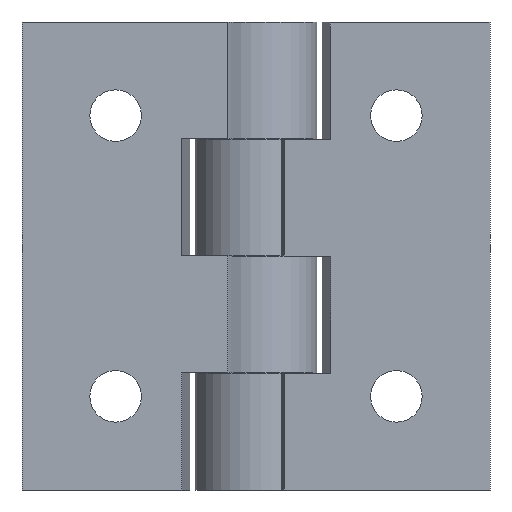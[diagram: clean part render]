
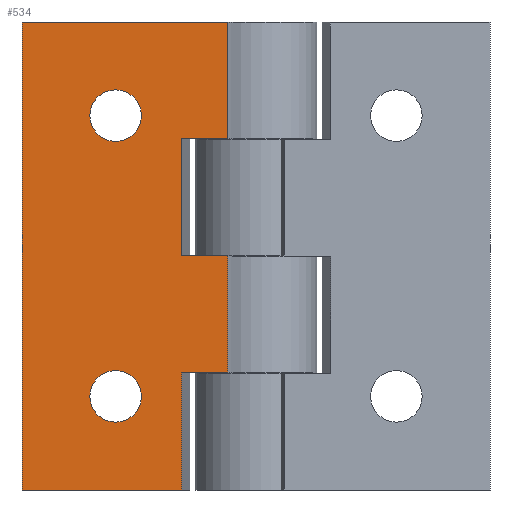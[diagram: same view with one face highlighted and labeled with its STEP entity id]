
A CAD part, front view. The second image highlights one B-rep face of the part: STEP entity #534.
In plain terms, the highlighted planar face has unit normal (0, -1, 0).
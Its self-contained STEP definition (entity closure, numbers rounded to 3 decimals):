
#14 = VECTOR ( 'NONE', #180, 1000. ) ;
#27 = CARTESIAN_POINT ( 'NONE',  ( -39.342, 5.755, 50. ) ) ;
#29 = CARTESIAN_POINT ( 'NONE',  ( -39.342, 5.755, 0. ) ) ;
#32 = VERTEX_POINT ( 'NONE', #701 ) ;
#34 = CARTESIAN_POINT ( 'NONE',  ( -39.342, 5.755, 37.5 ) ) ;
#48 = EDGE_CURVE ( 'NONE', #355, #352, #684, .T. ) ;
#49 = VERTEX_POINT ( 'NONE', #365 ) ;
#50 = CARTESIAN_POINT ( 'NONE',  ( -39.342, 5.755, 50. ) ) ;
#57 = ORIENTED_EDGE ( 'NONE', *, *, #656, .F. ) ;
#73 = EDGE_CURVE ( 'NONE', #249, #32, #505, .T. ) ;
#78 = VERTEX_POINT ( 'NONE', #704 ) ;
#86 = CARTESIAN_POINT ( 'NONE',  ( -44.28, 5.755, 0. ) ) ;
#88 = EDGE_CURVE ( 'NONE', #655, #108, #162, .T. ) ;
#108 = VERTEX_POINT ( 'NONE', #86 ) ;
#110 = VECTOR ( 'NONE', #145, 1000. ) ;
#112 = CARTESIAN_POINT ( 'NONE',  ( -51.342, 5.755, 10. ) ) ;
#130 = VECTOR ( 'NONE', #635, 1000. ) ;
#145 = DIRECTION ( 'NONE',  ( 1., 0., 0. ) ) ;
#157 = VECTOR ( 'NONE', #799, 1000. ) ;
#159 = ORIENTED_EDGE ( 'NONE', *, *, #294, .T. ) ;
#162 = LINE ( 'NONE', #29, #233 ) ;
#169 = CARTESIAN_POINT ( 'NONE',  ( -44.316, 5.755, 25. ) ) ;
#171 = PLANE ( 'NONE',  #378 ) ;
#176 = LINE ( 'NONE', #737, #157 ) ;
#178 = FACE_BOUND ( 'NONE', #230, .T. ) ;
#180 = DIRECTION ( 'NONE',  ( 1., 0., 0. ) ) ;
#185 = VERTEX_POINT ( 'NONE', #658 ) ;
#190 = DIRECTION ( 'NONE',  ( 0., 0., -1. ) ) ;
#202 = LINE ( 'NONE', #455, #110 ) ;
#204 = CIRCLE ( 'NONE', #602, 2.75 ) ;
#221 = ORIENTED_EDGE ( 'NONE', *, *, #606, .T. ) ;
#224 = ORIENTED_EDGE ( 'NONE', *, *, #48, .F. ) ;
#230 = EDGE_LOOP ( 'NONE', ( #790 ) ) ;
#233 = VECTOR ( 'NONE', #275, 1000. ) ;
#245 = ORIENTED_EDGE ( 'NONE', *, *, #611, .T. ) ;
#249 = VERTEX_POINT ( 'NONE', #169 ) ;
#275 = DIRECTION ( 'NONE',  ( 1., 0., 0. ) ) ;
#294 = EDGE_CURVE ( 'NONE', #49, #655, #630, .T. ) ;
#296 = CARTESIAN_POINT ( 'NONE',  ( -39.342, 5.755, 37.5 ) ) ;
#307 = DIRECTION ( 'NONE',  ( 0., 1., 0. ) ) ;
#311 = EDGE_CURVE ( 'NONE', #668, #711, #435, .T. ) ;
#323 = LINE ( 'NONE', #394, #522 ) ;
#326 = VECTOR ( 'NONE', #190, 1000. ) ;
#330 = VERTEX_POINT ( 'NONE', #579 ) ;
#341 = EDGE_CURVE ( 'NONE', #49, #355, #202, .T. ) ;
#352 = VERTEX_POINT ( 'NONE', #34 ) ;
#355 = VERTEX_POINT ( 'NONE', #27 ) ;
#356 = AXIS2_PLACEMENT_3D ( 'NONE', #641, #499, #560 ) ;
#365 = CARTESIAN_POINT ( 'NONE',  ( -61.342, 5.755, 50. ) ) ;
#370 = CARTESIAN_POINT ( 'NONE',  ( -39.342, 5.755, 50. ) ) ;
#375 = CARTESIAN_POINT ( 'NONE',  ( -39.342, 5.755, 50. ) ) ;
#377 = DIRECTION ( 'NONE',  ( 0., 0., 1. ) ) ;
#378 = AXIS2_PLACEMENT_3D ( 'NONE', #375, #307, #418 ) ;
#394 = CARTESIAN_POINT ( 'NONE',  ( -44.316, 5.755, 50. ) ) ;
#418 = DIRECTION ( 'NONE',  ( -1., 0., 0. ) ) ;
#426 = LINE ( 'NONE', #296, #14 ) ;
#428 = FACE_BOUND ( 'NONE', #527, .T. ) ;
#433 = DIRECTION ( 'NONE',  ( 0., 1., 0. ) ) ;
#435 = LINE ( 'NONE', #761, #674 ) ;
#440 = ORIENTED_EDGE ( 'NONE', *, *, #88, .T. ) ;
#443 = CARTESIAN_POINT ( 'NONE',  ( -39.342, 5.755, 25. ) ) ;
#455 = CARTESIAN_POINT ( 'NONE',  ( -39.342, 5.755, 50. ) ) ;
#482 = DIRECTION ( 'NONE',  ( 0., 0., -1. ) ) ;
#499 = DIRECTION ( 'NONE',  ( 0., 1., 0. ) ) ;
#505 = LINE ( 'NONE', #443, #130 ) ;
#520 = ORIENTED_EDGE ( 'NONE', *, *, #311, .F. ) ;
#522 = VECTOR ( 'NONE', #377, 1000. ) ;
#527 = EDGE_LOOP ( 'NONE', ( #558 ) ) ;
#532 = ORIENTED_EDGE ( 'NONE', *, *, #341, .F. ) ;
#534 = ADVANCED_FACE ( 'NONE', ( #178, #428, #614 ), #171, .F. ) ;
#548 = EDGE_CURVE ( 'NONE', #78, #78, #204, .T. ) ;
#558 = ORIENTED_EDGE ( 'NONE', *, *, #548, .T. ) ;
#560 = DIRECTION ( 'NONE',  ( -1., 0., 0. ) ) ;
#576 = VECTOR ( 'NONE', #620, 1000. ) ;
#579 = CARTESIAN_POINT ( 'NONE',  ( -54.092, 5.755, 40. ) ) ;
#584 = CARTESIAN_POINT ( 'NONE',  ( -61.342, 5.755, 50. ) ) ;
#588 = CIRCLE ( 'NONE', #356, 2.75 ) ;
#602 = AXIS2_PLACEMENT_3D ( 'NONE', #112, #433, #680 ) ;
#606 = EDGE_CURVE ( 'NONE', #185, #352, #426, .T. ) ;
#610 = EDGE_LOOP ( 'NONE', ( #440, #245, #520, #57, #779, #678, #221, #224, #532, #159 ) ) ;
#611 = EDGE_CURVE ( 'NONE', #108, #711, #176, .T. ) ;
#614 = FACE_OUTER_BOUND ( 'NONE', #610, .T. ) ;
#620 = DIRECTION ( 'NONE',  ( 0., 0., -1. ) ) ;
#630 = LINE ( 'NONE', #584, #326 ) ;
#635 = DIRECTION ( 'NONE',  ( 1., 0., 0. ) ) ;
#641 = CARTESIAN_POINT ( 'NONE',  ( -51.342, 5.755, 40. ) ) ;
#655 = VERTEX_POINT ( 'NONE', #787 ) ;
#656 = EDGE_CURVE ( 'NONE', #32, #668, #689, .T. ) ;
#658 = CARTESIAN_POINT ( 'NONE',  ( -44.316, 5.755, 37.5 ) ) ;
#668 = VERTEX_POINT ( 'NONE', #683 ) ;
#674 = VECTOR ( 'NONE', #700, 1000. ) ;
#678 = ORIENTED_EDGE ( 'NONE', *, *, #744, .T. ) ;
#680 = DIRECTION ( 'NONE',  ( -1., 0., 0. ) ) ;
#683 = CARTESIAN_POINT ( 'NONE',  ( -39.342, 5.755, 12.5 ) ) ;
#684 = LINE ( 'NONE', #370, #576 ) ;
#689 = LINE ( 'NONE', #50, #740 ) ;
#696 = EDGE_CURVE ( 'NONE', #330, #330, #588, .T. ) ;
#700 = DIRECTION ( 'NONE',  ( -1., 0., 0. ) ) ;
#701 = CARTESIAN_POINT ( 'NONE',  ( -39.342, 5.755, 25. ) ) ;
#704 = CARTESIAN_POINT ( 'NONE',  ( -54.092, 5.755, 10. ) ) ;
#711 = VERTEX_POINT ( 'NONE', #754 ) ;
#737 = CARTESIAN_POINT ( 'NONE',  ( -44.28, 5.755, 50. ) ) ;
#740 = VECTOR ( 'NONE', #482, 1000. ) ;
#744 = EDGE_CURVE ( 'NONE', #249, #185, #323, .T. ) ;
#754 = CARTESIAN_POINT ( 'NONE',  ( -44.28, 5.755, 12.5 ) ) ;
#761 = CARTESIAN_POINT ( 'NONE',  ( -39.342, 5.755, 12.5 ) ) ;
#779 = ORIENTED_EDGE ( 'NONE', *, *, #73, .F. ) ;
#787 = CARTESIAN_POINT ( 'NONE',  ( -61.342, 5.755, 0. ) ) ;
#790 = ORIENTED_EDGE ( 'NONE', *, *, #696, .T. ) ;
#799 = DIRECTION ( 'NONE',  ( 0., 0., 1. ) ) ;
